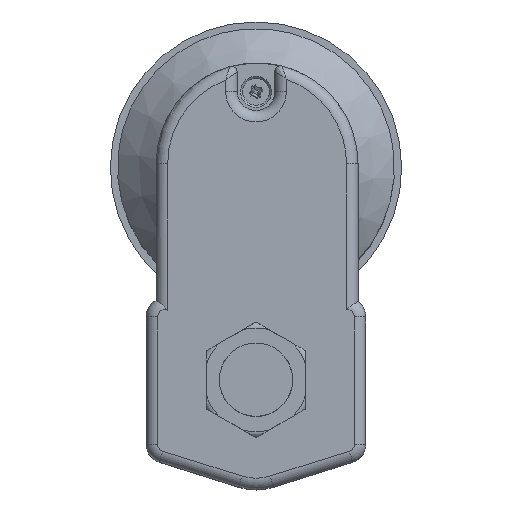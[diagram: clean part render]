
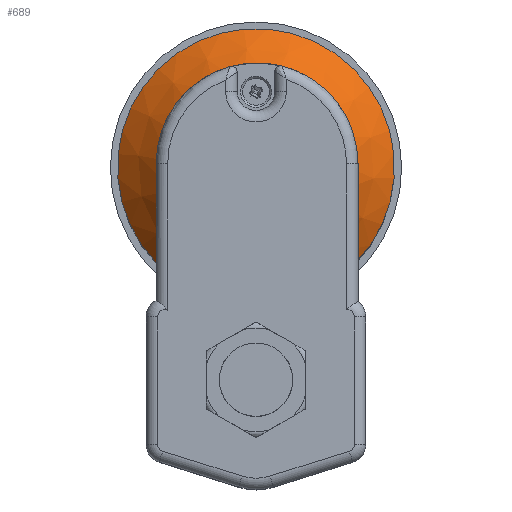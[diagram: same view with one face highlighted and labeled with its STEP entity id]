
A CAD part, top view. The second image highlights one B-rep face of the part: STEP entity #689.
In plain terms, the highlighted conical face has half-angle 45 degrees and reference radius 48 mm.
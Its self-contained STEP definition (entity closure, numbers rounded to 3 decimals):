
#315 = ORIENTED_EDGE ( 'NONE', *, *, #2429, .F. ) ;
#316 = ORIENTED_EDGE ( 'NONE', *, *, #2426, .T. ) ;
#317 = ORIENTED_EDGE ( 'NONE', *, *, #2427, .T. ) ;
#612 = EDGE_LOOP ( 'NONE', ( #315 ) ) ;
#616 = EDGE_LOOP ( 'NONE', ( #316, #317 ) ) ;
#689 = ADVANCED_FACE ( 'NONE', ( #1580, #1574 ), #1581, .T. ) ;
#968 = VERTEX_POINT ( 'NONE', #3341 ) ;
#969 = VERTEX_POINT ( 'NONE', #3342 ) ;
#1161 = DIRECTION ( 'NONE',  ( 0., 1., 0. ) ) ;
#1171 = CARTESIAN_POINT ( 'NONE',  ( 0., 73.9, 53.5 ) ) ;
#1172 = DIRECTION ( 'NONE',  ( 0., 0., -1. ) ) ;
#1574 = FACE_OUTER_BOUND ( 'NONE', #616, .T. ) ;
#1580 = FACE_BOUND ( 'NONE', #612, .T. ) ;
#1581 = CONICAL_SURFACE ( 'NONE', #2503, 48., 0.785 ) ;
#1915 = CIRCLE ( 'NONE', #2659, 48. ) ;
#1918 = CIRCLE ( 'NONE', #2672, 34. ) ;
#2426 = EDGE_CURVE ( 'NONE', #968, #969, #1915, .T. ) ;
#2427 = EDGE_CURVE ( 'NONE', #969, #968, #5834, .T. ) ;
#2429 = EDGE_CURVE ( 'NONE', #5045, #5045, #1918, .T. ) ;
#2503 = AXIS2_PLACEMENT_3D ( 'NONE', #1171, #1172, #1161 ) ;
#2659 = AXIS2_PLACEMENT_3D ( 'NONE', #3462, #3463, #3464 ) ;
#2672 = AXIS2_PLACEMENT_3D ( 'NONE', #3493, #3495, #3496 ) ;
#3341 = CARTESIAN_POINT ( 'NONE',  ( 27.908, 34.847, 53.5 ) ) ;
#3342 = CARTESIAN_POINT ( 'NONE',  ( -27.908, 34.847, 53.5 ) ) ;
#3460 = CARTESIAN_POINT ( 'NONE',  ( -27.908, 34.847, 53.5 ) ) ;
#3462 = CARTESIAN_POINT ( 'NONE',  ( 0., 73.9, 53.5 ) ) ;
#3463 = DIRECTION ( 'NONE',  ( 0., 0., 1. ) ) ;
#3464 = DIRECTION ( 'NONE',  ( 0., -1., 0. ) ) ;
#3466 = CARTESIAN_POINT ( 'NONE',  ( -26.826, 34.768, 54.065 ) ) ;
#3467 = CARTESIAN_POINT ( 'NONE',  ( -25.733, 34.688, 54.609 ) ) ;
#3468 = CARTESIAN_POINT ( 'NONE',  ( -23.531, 34.53, 55.644 ) ) ;
#3469 = CARTESIAN_POINT ( 'NONE',  ( -22.421, 34.452, 56.137 ) ) ;
#3470 = CARTESIAN_POINT ( 'NONE',  ( -19.06, 34.223, 57.53 ) ) ;
#3471 = CARTESIAN_POINT ( 'NONE',  ( -16.779, 34.077, 58.344 ) ) ;
#3472 = CARTESIAN_POINT ( 'NONE',  ( -13.28, 33.887, 59.356 ) ) ;
#3473 = CARTESIAN_POINT ( 'NONE',  ( -12.101, 33.829, 59.657 ) ) ;
#3474 = CARTESIAN_POINT ( 'NONE',  ( -9.715, 33.725, 60.183 ) ) ;
#3475 = CARTESIAN_POINT ( 'NONE',  ( -8.505, 33.679, 60.407 ) ) ;
#3476 = CARTESIAN_POINT ( 'NONE',  ( -6.081, 33.605, 60.767 ) ) ;
#3477 = CARTESIAN_POINT ( 'NONE',  ( -4.863, 33.577, 60.903 ) ) ;
#3478 = CARTESIAN_POINT ( 'NONE',  ( -2.415, 33.538, 61.085 ) ) ;
#3479 = CARTESIAN_POINT ( 'NONE',  ( -1.188, 33.529, 61.13 ) ) ;
#3480 = CARTESIAN_POINT ( 'NONE',  ( 2.477, 33.529, 61.127 ) ) ;
#3481 = CARTESIAN_POINT ( 'NONE',  ( 4.908, 33.569, 60.942 ) ) ;
#3482 = CARTESIAN_POINT ( 'NONE',  ( 8.537, 33.68, 60.402 ) ) ;
#3483 = CARTESIAN_POINT ( 'NONE',  ( 9.746, 33.726, 60.177 ) ) ;
#3484 = CARTESIAN_POINT ( 'NONE',  ( 12.13, 33.83, 59.65 ) ) ;
#3485 = CARTESIAN_POINT ( 'NONE',  ( 13.307, 33.888, 59.348 ) ) ;
#3486 = CARTESIAN_POINT ( 'NONE',  ( 16.801, 34.078, 58.337 ) ) ;
#3487 = CARTESIAN_POINT ( 'NONE',  ( 19.078, 34.224, 57.523 ) ) ;
#3488 = CARTESIAN_POINT ( 'NONE',  ( 23.55, 34.529, 55.668 ) ) ;
#3489 = CARTESIAN_POINT ( 'NONE',  ( 25.745, 34.688, 54.629 ) ) ;
#3490 = CARTESIAN_POINT ( 'NONE',  ( 27.908, 34.847, 53.5 ) ) ;
#3493 = CARTESIAN_POINT ( 'NONE',  ( 0., 73.9, 67.5 ) ) ;
#3495 = DIRECTION ( 'NONE',  ( 0., 0., 1. ) ) ;
#3496 = DIRECTION ( 'NONE',  ( 0., -1., 0. ) ) ;
#5045 = VERTEX_POINT ( 'NONE', #5046 ) ;
#5046 = CARTESIAN_POINT ( 'NONE',  ( 0., 39.9, 67.5 ) ) ;
#5834 = B_SPLINE_CURVE_WITH_KNOTS ( 'NONE', 3,
 ( #3460, #3466, #3467, #3468, #3469, #3470, #3471, #3472, #3473, #3474, #3475, #3476, #3477, #3478, #3479, #3480, #3481, #3482, #3483, #3484, #3485, #3486, #3487, #3488, #3489, #3490 ),
 .UNSPECIFIED., .F., .F.,
 ( 4, 2, 2, 2, 2, 2, 2, 2, 2, 2, 2, 2, 4 ),
 ( 0., 0.004, 0.007, 0.015, 0.018, 0.022, 0.026, 0.029, 0.037, 0.04, 0.044, 0.051, 0.059 ),
 .UNSPECIFIED. ) ;
